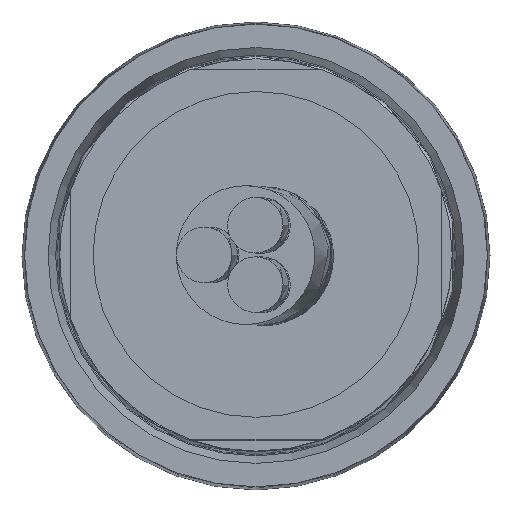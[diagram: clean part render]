
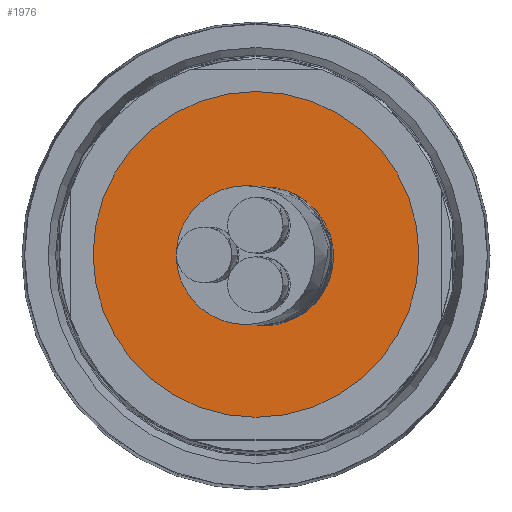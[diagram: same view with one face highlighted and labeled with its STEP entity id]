
A CAD part, top view. The second image highlights one B-rep face of the part: STEP entity #1976.
In plain terms, the highlighted planar face has unit normal (0, 0, 1).
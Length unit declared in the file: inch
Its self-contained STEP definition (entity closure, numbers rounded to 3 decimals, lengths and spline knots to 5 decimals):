
#85 = DIRECTION ( 'NONE',  ( 0., -1., 0. ) ) ;
#144 = DIRECTION ( 'NONE',  ( 0., -1., 0. ) ) ;
#175 = EDGE_CURVE ( 'NONE', #218, #218, #1223, .T. ) ;
#218 = VERTEX_POINT ( 'NONE', #735 ) ;
#308 = CARTESIAN_POINT ( 'NONE',  ( 0., 0., 3.63332 ) ) ;
#481 = PLANE ( 'NONE',  #1137 ) ;
#656 = FACE_OUTER_BOUND ( 'NONE', #1494, .T. ) ;
#735 = CARTESIAN_POINT ( 'NONE',  ( 0., -0.44, 3.63332 ) ) ;
#1111 = ORIENTED_EDGE ( 'NONE', *, *, #175, .T. ) ;
#1137 = AXIS2_PLACEMENT_3D ( 'NONE', #308, #1764, #144 ) ;
#1223 = CIRCLE ( 'NONE', #2213, 0.44 ) ;
#1494 = EDGE_LOOP ( 'NONE', ( #1111 ) ) ;
#1661 = CARTESIAN_POINT ( 'NONE',  ( 0., 0., 3.63332 ) ) ;
#1685 = DIRECTION ( 'NONE',  ( 0., 0., 1. ) ) ;
#1764 = DIRECTION ( 'NONE',  ( 0., 0., 1. ) ) ;
#1976 = ADVANCED_FACE ( 'NONE', ( #656 ), #481, .T. ) ;
#2213 = AXIS2_PLACEMENT_3D ( 'NONE', #1661, #1685, #85 ) ;
